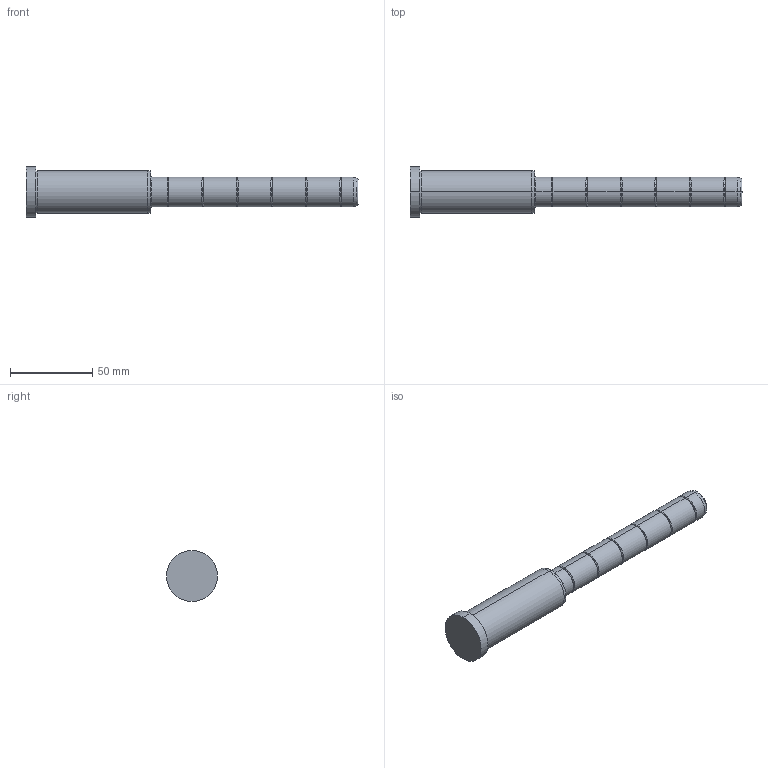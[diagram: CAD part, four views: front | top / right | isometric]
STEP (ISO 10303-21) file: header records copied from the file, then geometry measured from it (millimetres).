
FILE_DESCRIPTION( ( 'STEP AP203' ), '1' );
FILE_NAME( 'C:/Projects/D02 - 18x76x126.step', '2003-01-04T13:27:07', ( ' ' ), ( ' ' ), 'XStep 1.0', ' ', ' ' );
FILE_SCHEMA( ( 'CONFIG_CONTROL_DESIGN' ) );
Length unit declared in the file: metre
Products named in the file (1): 1
Bounding box: 202 x 31 x 31 mm (x, y, z)
Volume: 73602.5 mm3; surface area: 15023.9 mm2
Topology: 1 solids, 1 shells, 60 faces, 118 edges, 64 vertices
Faces by surface type: bspline 34, revolution 26
Entity records: 1919 total; most frequent: CARTESIAN_POINT 817, ORIENTED_EDGE 236, DIRECTION 182, EDGE_CURVE 118, AXIS2_PLACEMENT_3D 65, EDGE_LOOP 64, VERTEX_POINT 64, CIRCLE 64
